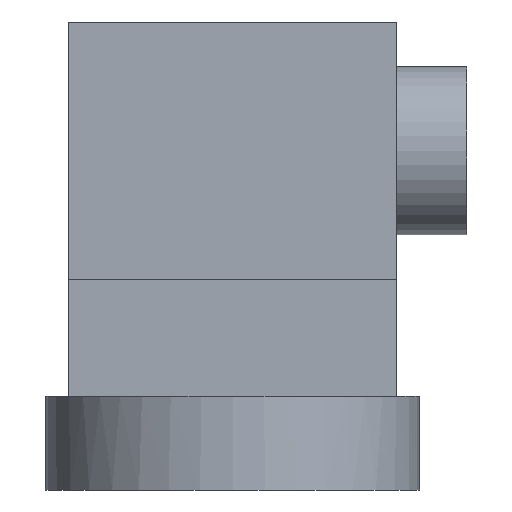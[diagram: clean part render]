
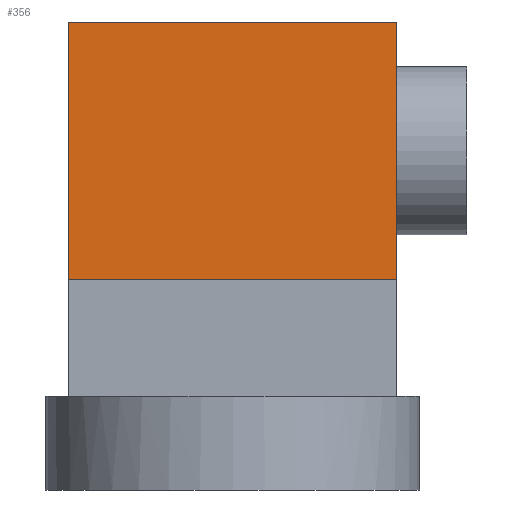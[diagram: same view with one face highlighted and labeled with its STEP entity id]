
A CAD part, front view. The second image highlights one B-rep face of the part: STEP entity #356.
In plain terms, the highlighted planar face has unit normal (0, -1, 0).
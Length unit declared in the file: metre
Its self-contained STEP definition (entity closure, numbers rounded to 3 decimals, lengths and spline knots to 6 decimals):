
#22=PLANE('',#400);
#44=FACE_OUTER_BOUND('',#67,.T.);
#67=EDGE_LOOP('',(#270,#271,#272,#273));
#93=LINE('',#568,#128);
#98=LINE('',#578,#133);
#99=LINE('',#580,#134);
#100=LINE('',#581,#135);
#128=VECTOR('',#456,0.01);
#133=VECTOR('',#465,0.01);
#134=VECTOR('',#466,0.01);
#135=VECTOR('',#467,0.01);
#179=VERTEX_POINT('',#565);
#180=VERTEX_POINT('',#567);
#183=VERTEX_POINT('',#577);
#184=VERTEX_POINT('',#579);
#211=EDGE_CURVE('',#180,#179,#93,.T.);
#216=EDGE_CURVE('',#179,#183,#98,.T.);
#217=EDGE_CURVE('',#184,#183,#99,.T.);
#218=EDGE_CURVE('',#180,#184,#100,.T.);
#270=ORIENTED_EDGE('',*,*,#211,.T.);
#271=ORIENTED_EDGE('',*,*,#216,.T.);
#272=ORIENTED_EDGE('',*,*,#217,.F.);
#273=ORIENTED_EDGE('',*,*,#218,.F.);
#356=ADVANCED_FACE('',(#44),#22,.T.);
#400=AXIS2_PLACEMENT_3D('',#576,#463,#464);
#456=DIRECTION('',(1.,0.,0.));
#463=DIRECTION('center_axis',(0.,-1.,0.));
#464=DIRECTION('ref_axis',(1.,0.,0.));
#465=DIRECTION('',(0.,0.,1.));
#466=DIRECTION('',(1.,0.,0.));
#467=DIRECTION('',(0.,0.,1.));
#565=CARTESIAN_POINT('',(0.035,-0.125,0.045));
#567=CARTESIAN_POINT('',(-0.035,-0.125,0.045));
#568=CARTESIAN_POINT('',(-0.035,-0.125,0.045));
#576=CARTESIAN_POINT('Origin',(-0.035,-0.125,0.045));
#577=CARTESIAN_POINT('',(0.035,-0.125,0.1));
#578=CARTESIAN_POINT('',(0.035,-0.125,0.045));
#579=CARTESIAN_POINT('',(-0.035,-0.125,0.1));
#580=CARTESIAN_POINT('',(-0.035,-0.125,0.1));
#581=CARTESIAN_POINT('',(-0.035,-0.125,0.045));
